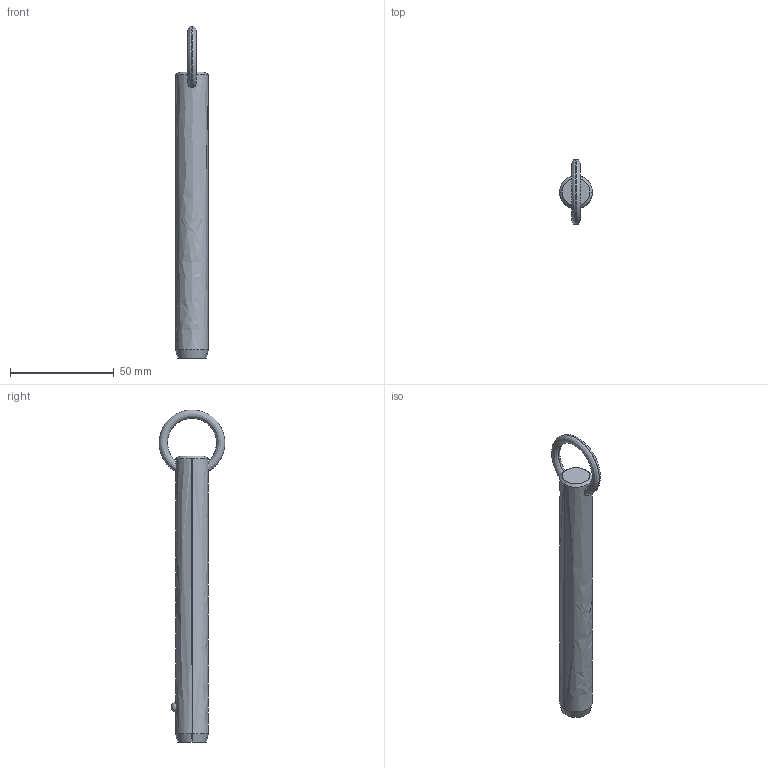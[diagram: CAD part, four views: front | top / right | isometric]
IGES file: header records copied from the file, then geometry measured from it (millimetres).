
Start section: SolidWorks IGES file using analytic representation for surfaces
Global section: file name: C:\Users\liam_\OneDrive\Documents\WORK\Work for WixRoyd\Job Files\J-00019 - Matt Davis CAD Checking\04. CAD Drawings\automotion20190605\P1250.2_v2\P1250.2_v2_20190729_IGES\P1250.062-430.igs; native system: SolidWorks 2017; preprocessor: SolidWorks 2017; author: liam_; date: 190729.233733; units: millimetre
Bounding box: 15.8 x 31.7 x 159.89 mm (x, y, z)
Surface area: 8008.9 mm2 (no closed solid volume)
Topology: 0 solids, 0 shells, 12 faces, 292 edges, 290 vertices
Faces by surface type: revolution 8, bspline 4
